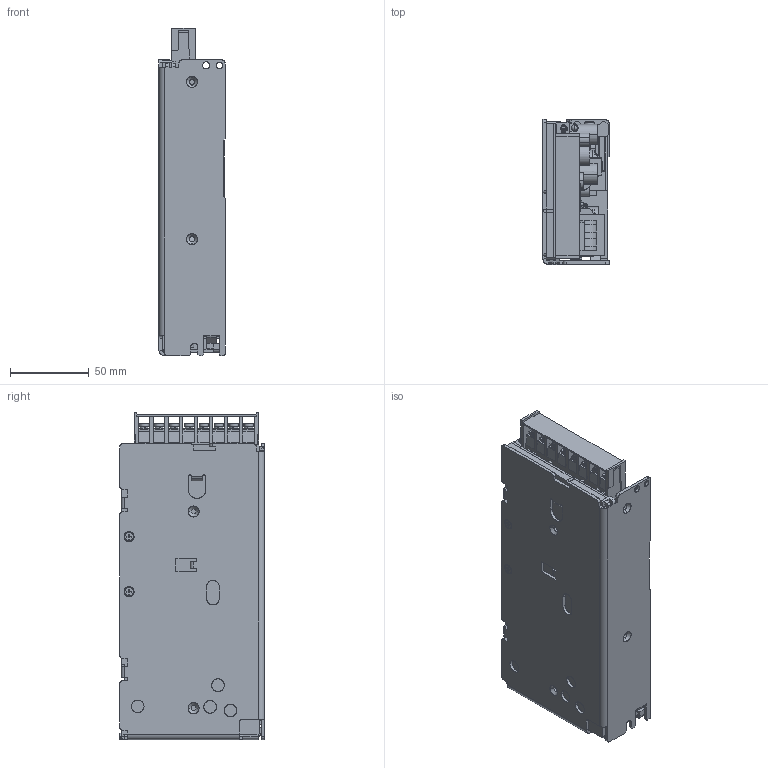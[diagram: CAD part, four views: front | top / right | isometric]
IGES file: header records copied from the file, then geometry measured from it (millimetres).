
Start section: SolidWorks IGES file using analytic representation for surfaces
Global section: file name: C:\JWT75_OUTLINE.IGS; native system: SolidWorks 2007; preprocessor: SolidWorks 2007; author: 3444matsunaga; date: 070409.093204; units: millimetre
Bounding box: 42 x 92 x 208 mm (x, y, z)
Surface area: 136196.2 mm2 (no closed solid volume)
Topology: 0 solids, 0 shells, 2770 faces, 26666 edges, 26645 vertices
Faces by surface type: bspline 1685, revolution 1085
